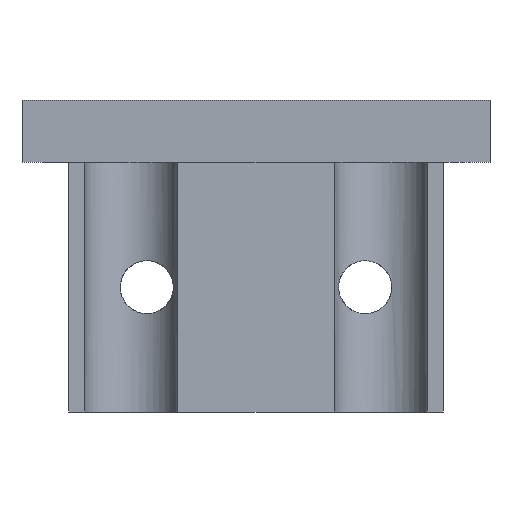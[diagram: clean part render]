
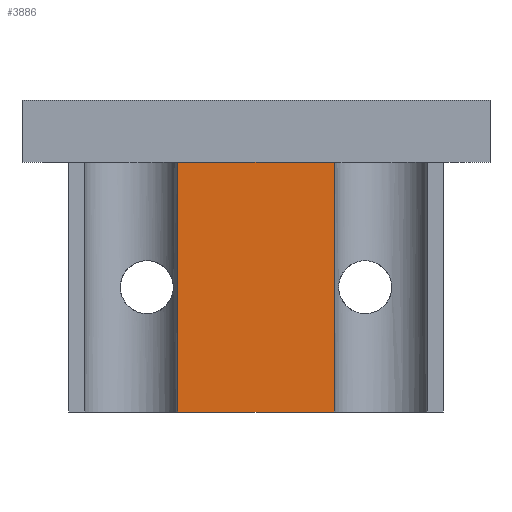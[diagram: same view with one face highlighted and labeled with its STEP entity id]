
A CAD part, left-side view. The second image highlights one B-rep face of the part: STEP entity #3886.
In plain terms, the highlighted planar face has unit normal (-1, 0, 0).
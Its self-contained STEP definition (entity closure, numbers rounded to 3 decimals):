
#72 = PLANE('',#73);
#73 = AXIS2_PLACEMENT_3D('',#74,#75,#76);
#74 = CARTESIAN_POINT('',(130.,63.,8.));
#75 = DIRECTION('',(0.,0.,1.));
#76 = DIRECTION('',(1.,0.,0.));
#321 = CYLINDRICAL_SURFACE('',#322,3.);
#322 = AXIS2_PLACEMENT_3D('',#323,#324,#325);
#323 = CARTESIAN_POINT('',(137.,70.,-9.));
#324 = DIRECTION('',(-0.,-0.,-1.));
#325 = DIRECTION('',(1.,0.,0.));
#426 = CYLINDRICAL_SURFACE('',#427,3.);
#427 = AXIS2_PLACEMENT_3D('',#428,#429,#430);
#428 = CARTESIAN_POINT('',(137.,86.,-9.));
#429 = DIRECTION('',(-0.,-0.,-1.));
#430 = DIRECTION('',(1.,0.,0.));
#768 = VERTEX_POINT('',#769);
#769 = CARTESIAN_POINT('',(137.4,72.973,8.));
#795 = EDGE_CURVE('',#768,#796,#798,.T.);
#796 = VERTEX_POINT('',#797);
#797 = CARTESIAN_POINT('',(137.4,83.027,8.));
#798 = SURFACE_CURVE('',#799,(#803,#810),.PCURVE_S1.);
#799 = LINE('',#800,#801);
#800 = CARTESIAN_POINT('',(137.4,66.,8.));
#801 = VECTOR('',#802,1.);
#802 = DIRECTION('',(0.,1.,0.));
#803 = PCURVE('',#72,#804);
#804 = DEFINITIONAL_REPRESENTATION('',(#805),#809);
#805 = LINE('',#806,#807);
#806 = CARTESIAN_POINT('',(7.4,3.));
#807 = VECTOR('',#808,1.);
#808 = DIRECTION('',(0.,1.));
#809 = ( GEOMETRIC_REPRESENTATION_CONTEXT(2) 
PARAMETRIC_REPRESENTATION_CONTEXT() REPRESENTATION_CONTEXT('2D SPACE',''
  ) );
#810 = PCURVE('',#811,#816);
#811 = PLANE('',#812);
#812 = AXIS2_PLACEMENT_3D('',#813,#814,#815);
#813 = CARTESIAN_POINT('',(137.4,66.,-8.));
#814 = DIRECTION('',(1.,0.,0.));
#815 = DIRECTION('',(0.,0.,1.));
#816 = DEFINITIONAL_REPRESENTATION('',(#817),#821);
#817 = LINE('',#818,#819);
#818 = CARTESIAN_POINT('',(16.,0.));
#819 = VECTOR('',#820,1.);
#820 = DIRECTION('',(0.,-1.));
#821 = ( GEOMETRIC_REPRESENTATION_CONTEXT(2) 
PARAMETRIC_REPRESENTATION_CONTEXT() REPRESENTATION_CONTEXT('2D SPACE',''
  ) );
#1285 = VERTEX_POINT('',#1286);
#1286 = CARTESIAN_POINT('',(137.4,72.973,-8.));
#1303 = PLANE('',#1304);
#1304 = AXIS2_PLACEMENT_3D('',#1305,#1306,#1307);
#1305 = CARTESIAN_POINT('',(137.4,66.,-8.));
#1306 = DIRECTION('',(0.,0.,1.));
#1307 = DIRECTION('',(1.,0.,0.));
#1855 = EDGE_CURVE('',#768,#1285,#1856,.T.);
#1856 = SURFACE_CURVE('',#1857,(#1861,#1867),.PCURVE_S1.);
#1857 = LINE('',#1858,#1859);
#1858 = CARTESIAN_POINT('',(137.4,72.973,-9.));
#1859 = VECTOR('',#1860,1.);
#1860 = DIRECTION('',(-0.,-0.,-1.));
#1861 = PCURVE('',#321,#1862);
#1862 = DEFINITIONAL_REPRESENTATION('',(#1863),#1866);
#1863 = B_SPLINE_CURVE_WITH_KNOTS('',1,(#1864,#1865),.UNSPECIFIED.,.F.,
  .F.,(2,2),(-18.6,0.),.PIECEWISE_BEZIER_KNOTS.);
#1864 = CARTESIAN_POINT('',(-1.437,-18.6));
#1865 = CARTESIAN_POINT('',(-1.437,0.));
#1866 = ( GEOMETRIC_REPRESENTATION_CONTEXT(2) 
PARAMETRIC_REPRESENTATION_CONTEXT() REPRESENTATION_CONTEXT('2D SPACE',''
  ) );
#1867 = PCURVE('',#811,#1868);
#1868 = DEFINITIONAL_REPRESENTATION('',(#1869),#1872);
#1869 = B_SPLINE_CURVE_WITH_KNOTS('',1,(#1870,#1871),.UNSPECIFIED.,.F.,
  .F.,(2,2),(-18.6,0.),.PIECEWISE_BEZIER_KNOTS.);
#1870 = CARTESIAN_POINT('',(17.6,-6.973));
#1871 = CARTESIAN_POINT('',(-1.,-6.973));
#1872 = ( GEOMETRIC_REPRESENTATION_CONTEXT(2) 
PARAMETRIC_REPRESENTATION_CONTEXT() REPRESENTATION_CONTEXT('2D SPACE',''
  ) );
#2983 = VERTEX_POINT('',#2984);
#2984 = CARTESIAN_POINT('',(137.4,83.027,-8.));
#3010 = EDGE_CURVE('',#796,#2983,#3011,.T.);
#3011 = SURFACE_CURVE('',#3012,(#3016,#3022),.PCURVE_S1.);
#3012 = LINE('',#3013,#3014);
#3013 = CARTESIAN_POINT('',(137.4,83.027,-9.));
#3014 = VECTOR('',#3015,1.);
#3015 = DIRECTION('',(-0.,-0.,-1.));
#3016 = PCURVE('',#426,#3017);
#3017 = DEFINITIONAL_REPRESENTATION('',(#3018),#3021);
#3018 = B_SPLINE_CURVE_WITH_KNOTS('',1,(#3019,#3020),.UNSPECIFIED.,.F.,
  .F.,(2,2),(-18.6,0.),.PIECEWISE_BEZIER_KNOTS.);
#3019 = CARTESIAN_POINT('',(-4.846,-18.6));
#3020 = CARTESIAN_POINT('',(-4.846,0.));
#3021 = ( GEOMETRIC_REPRESENTATION_CONTEXT(2) 
PARAMETRIC_REPRESENTATION_CONTEXT() REPRESENTATION_CONTEXT('2D SPACE',''
  ) );
#3022 = PCURVE('',#811,#3023);
#3023 = DEFINITIONAL_REPRESENTATION('',(#3024),#3027);
#3024 = B_SPLINE_CURVE_WITH_KNOTS('',1,(#3025,#3026),.UNSPECIFIED.,.F.,
  .F.,(2,2),(-18.6,0.),.PIECEWISE_BEZIER_KNOTS.);
#3025 = CARTESIAN_POINT('',(17.6,-17.027));
#3026 = CARTESIAN_POINT('',(-1.,-17.027));
#3027 = ( GEOMETRIC_REPRESENTATION_CONTEXT(2) 
PARAMETRIC_REPRESENTATION_CONTEXT() REPRESENTATION_CONTEXT('2D SPACE',''
  ) );
#3886 = ADVANCED_FACE('',(#3887),#811,.F.);
#3887 = FACE_BOUND('',#3888,.F.);
#3888 = EDGE_LOOP('',(#3889,#3890,#3891,#3912));
#3889 = ORIENTED_EDGE('',*,*,#795,.F.);
#3890 = ORIENTED_EDGE('',*,*,#1855,.T.);
#3891 = ORIENTED_EDGE('',*,*,#3892,.T.);
#3892 = EDGE_CURVE('',#1285,#2983,#3893,.T.);
#3893 = SURFACE_CURVE('',#3894,(#3898,#3905),.PCURVE_S1.);
#3894 = LINE('',#3895,#3896);
#3895 = CARTESIAN_POINT('',(137.4,66.,-8.));
#3896 = VECTOR('',#3897,1.);
#3897 = DIRECTION('',(0.,1.,0.));
#3898 = PCURVE('',#811,#3899);
#3899 = DEFINITIONAL_REPRESENTATION('',(#3900),#3904);
#3900 = LINE('',#3901,#3902);
#3901 = CARTESIAN_POINT('',(0.,0.));
#3902 = VECTOR('',#3903,1.);
#3903 = DIRECTION('',(0.,-1.));
#3904 = ( GEOMETRIC_REPRESENTATION_CONTEXT(2) 
PARAMETRIC_REPRESENTATION_CONTEXT() REPRESENTATION_CONTEXT('2D SPACE',''
  ) );
#3905 = PCURVE('',#1303,#3906);
#3906 = DEFINITIONAL_REPRESENTATION('',(#3907),#3911);
#3907 = LINE('',#3908,#3909);
#3908 = CARTESIAN_POINT('',(0.,0.));
#3909 = VECTOR('',#3910,1.);
#3910 = DIRECTION('',(0.,1.));
#3911 = ( GEOMETRIC_REPRESENTATION_CONTEXT(2) 
PARAMETRIC_REPRESENTATION_CONTEXT() REPRESENTATION_CONTEXT('2D SPACE',''
  ) );
#3912 = ORIENTED_EDGE('',*,*,#3010,.F.);
